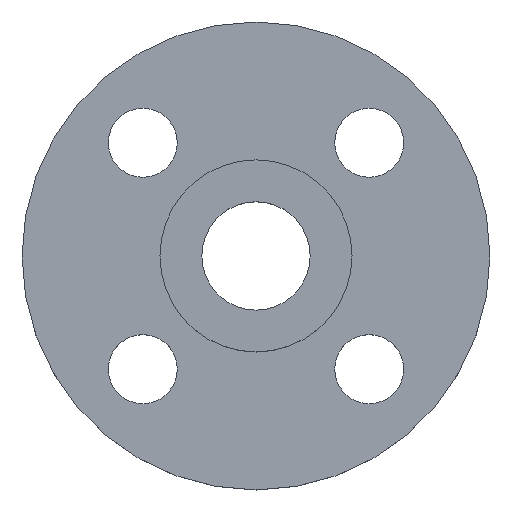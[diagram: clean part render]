
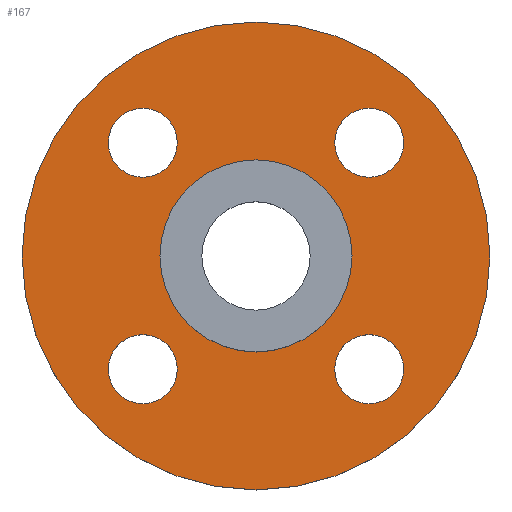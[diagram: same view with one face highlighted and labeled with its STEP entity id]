
A CAD part, top view. The second image highlights one B-rep face of the part: STEP entity #167.
In plain terms, the highlighted planar face has unit normal (0, 0, 1).
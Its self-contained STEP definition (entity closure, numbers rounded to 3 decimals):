
#9 = CIRCLE ( 'NONE', #170, 7. ) ;
#12 = CIRCLE ( 'NONE', #121, 7. ) ;
#14 = CIRCLE ( 'NONE', #69, 7. ) ;
#30 = CIRCLE ( 'NONE', #85, 7. ) ;
#31 = CARTESIAN_POINT ( 'NONE',  ( 22.981, -22.981, -4.5 ) ) ;
#32 = CIRCLE ( 'NONE', #251, 19.5 ) ;
#33 = EDGE_CURVE ( 'NONE', #384, #200, #566, .T. ) ;
#39 = EDGE_CURVE ( 'NONE', #243, #290, #9, .T. ) ;
#47 = EDGE_CURVE ( 'NONE', #245, #373, #301, .T. ) ;
#48 = AXIS2_PLACEMENT_3D ( 'NONE', #207, #211, #212 ) ;
#57 = AXIS2_PLACEMENT_3D ( 'NONE', #516, #518, #519 ) ;
#60 = AXIS2_PLACEMENT_3D ( 'NONE', #499, #500, #501 ) ;
#69 = AXIS2_PLACEMENT_3D ( 'NONE', #31, #106, #74 ) ;
#73 = AXIS2_PLACEMENT_3D ( 'NONE', #433, #435, #436 ) ;
#74 = DIRECTION ( 'NONE',  ( 1., 0., 0. ) ) ;
#85 = AXIS2_PLACEMENT_3D ( 'NONE', #496, #497, #498 ) ;
#102 = CIRCLE ( 'NONE', #110, 47.5 ) ;
#106 = DIRECTION ( 'NONE',  ( 0., 0., -1. ) ) ;
#110 = AXIS2_PLACEMENT_3D ( 'NONE', #545, #546, #547 ) ;
#113 = AXIS2_PLACEMENT_3D ( 'NONE', #529, #530, #531 ) ;
#114 = EDGE_CURVE ( 'NONE', #373, #245, #154, .T. ) ;
#121 = AXIS2_PLACEMENT_3D ( 'NONE', #492, #493, #494 ) ;
#128 = CIRCLE ( 'NONE', #113, 7. ) ;
#133 = CARTESIAN_POINT ( 'NONE',  ( 15.981, 22.981, -4.5 ) ) ;
#138 = CARTESIAN_POINT ( 'NONE',  ( 29.981, -22.981, -4.5 ) ) ;
#144 = CARTESIAN_POINT ( 'NONE',  ( -29.981, -22.981, -4.5 ) ) ;
#153 = EDGE_CURVE ( 'NONE', #290, #243, #12, .T. ) ;
#154 = CIRCLE ( 'NONE', #523, 7. ) ;
#156 = CARTESIAN_POINT ( 'NONE',  ( 47.5, 0., -4.5 ) ) ;
#157 = EDGE_CURVE ( 'NONE', #365, #288, #30, .T. ) ;
#164 = EDGE_CURVE ( 'NONE', #357, #171, #502, .T. ) ;
#167 = ADVANCED_FACE ( 'NONE', ( #508, #509, #510, #511, #513, #514 ), #515, .T. ) ;
#170 = AXIS2_PLACEMENT_3D ( 'NONE', #426, #427, #428 ) ;
#171 = VERTEX_POINT ( 'NONE', #526 ) ;
#175 = EDGE_CURVE ( 'NONE', #171, #357, #128, .T. ) ;
#193 = CARTESIAN_POINT ( 'NONE',  ( 0., 0., -4.5 ) ) ;
#194 = DIRECTION ( 'NONE',  ( 0., 0., -1. ) ) ;
#196 = DIRECTION ( 'NONE',  ( -1., 0., 0. ) ) ;
#200 = VERTEX_POINT ( 'NONE', #538 ) ;
#202 = AXIS2_PLACEMENT_3D ( 'NONE', #423, #424, #425 ) ;
#206 = VERTEX_POINT ( 'NONE', #542 ) ;
#207 = CARTESIAN_POINT ( 'NONE',  ( 0., 0., -4.5 ) ) ;
#209 = VERTEX_POINT ( 'NONE', #543 ) ;
#211 = DIRECTION ( 'NONE',  ( 0., 0., -1. ) ) ;
#212 = DIRECTION ( 'NONE',  ( -1., 0., 0. ) ) ;
#233 = EDGE_CURVE ( 'NONE', #200, #384, #102, .T. ) ;
#243 = VERTEX_POINT ( 'NONE', #555 ) ;
#245 = VERTEX_POINT ( 'NONE', #556 ) ;
#251 = AXIS2_PLACEMENT_3D ( 'NONE', #193, #194, #196 ) ;
#269 = EDGE_LOOP ( 'NONE', ( #295, #296 ) ) ;
#288 = VERTEX_POINT ( 'NONE', #567 ) ;
#290 = VERTEX_POINT ( 'NONE', #568 ) ;
#293 = ORIENTED_EDGE ( 'NONE', *, *, #157, .T. ) ;
#294 = ORIENTED_EDGE ( 'NONE', *, *, #327, .T. ) ;
#295 = ORIENTED_EDGE ( 'NONE', *, *, #47, .T. ) ;
#296 = ORIENTED_EDGE ( 'NONE', *, *, #114, .T. ) ;
#297 = ORIENTED_EDGE ( 'NONE', *, *, #39, .T. ) ;
#298 = ORIENTED_EDGE ( 'NONE', *, *, #153, .T. ) ;
#299 = ORIENTED_EDGE ( 'NONE', *, *, #175, .T. ) ;
#300 = ORIENTED_EDGE ( 'NONE', *, *, #164, .T. ) ;
#301 = CIRCLE ( 'NONE', #73, 7. ) ;
#302 = ORIENTED_EDGE ( 'NONE', *, *, #517, .T. ) ;
#303 = ORIENTED_EDGE ( 'NONE', *, *, #484, .T. ) ;
#304 = ORIENTED_EDGE ( 'NONE', *, *, #33, .F. ) ;
#305 = ORIENTED_EDGE ( 'NONE', *, *, #233, .F. ) ;
#327 = EDGE_CURVE ( 'NONE', #288, #365, #14, .T. ) ;
#355 = EDGE_LOOP ( 'NONE', ( #293, #294 ) ) ;
#356 = CIRCLE ( 'NONE', #48, 19.5 ) ;
#357 = VERTEX_POINT ( 'NONE', #133 ) ;
#360 = EDGE_LOOP ( 'NONE', ( #304, #305 ) ) ;
#365 = VERTEX_POINT ( 'NONE', #138 ) ;
#368 = EDGE_LOOP ( 'NONE', ( #302, #303 ) ) ;
#373 = VERTEX_POINT ( 'NONE', #144 ) ;
#374 = EDGE_LOOP ( 'NONE', ( #299, #300 ) ) ;
#377 = EDGE_LOOP ( 'NONE', ( #297, #298 ) ) ;
#384 = VERTEX_POINT ( 'NONE', #156 ) ;
#423 = CARTESIAN_POINT ( 'NONE',  ( 0., 0., -4.5 ) ) ;
#424 = DIRECTION ( 'NONE',  ( 0., 0., -1. ) ) ;
#425 = DIRECTION ( 'NONE',  ( -1., 0., 0. ) ) ;
#426 = CARTESIAN_POINT ( 'NONE',  ( -22.981, 22.981, -4.5 ) ) ;
#427 = DIRECTION ( 'NONE',  ( 0., 0., -1. ) ) ;
#428 = DIRECTION ( 'NONE',  ( 1., 0., 0. ) ) ;
#433 = CARTESIAN_POINT ( 'NONE',  ( -22.981, -22.981, -4.5 ) ) ;
#435 = DIRECTION ( 'NONE',  ( 0., 0., -1. ) ) ;
#436 = DIRECTION ( 'NONE',  ( 1., 0., 0. ) ) ;
#470 = CARTESIAN_POINT ( 'NONE',  ( -22.981, -22.981, -4.5 ) ) ;
#471 = DIRECTION ( 'NONE',  ( 0., 0., -1. ) ) ;
#472 = DIRECTION ( 'NONE',  ( 1., 0., 0. ) ) ;
#484 = EDGE_CURVE ( 'NONE', #206, #209, #32, .T. ) ;
#492 = CARTESIAN_POINT ( 'NONE',  ( -22.981, 22.981, -4.5 ) ) ;
#493 = DIRECTION ( 'NONE',  ( 0., 0., -1. ) ) ;
#494 = DIRECTION ( 'NONE',  ( 1., 0., 0. ) ) ;
#496 = CARTESIAN_POINT ( 'NONE',  ( 22.981, -22.981, -4.5 ) ) ;
#497 = DIRECTION ( 'NONE',  ( 0., 0., -1. ) ) ;
#498 = DIRECTION ( 'NONE',  ( 1., 0., 0. ) ) ;
#499 = CARTESIAN_POINT ( 'NONE',  ( 22.981, 22.981, -4.5 ) ) ;
#500 = DIRECTION ( 'NONE',  ( 0., 0., -1. ) ) ;
#501 = DIRECTION ( 'NONE',  ( 1., 0., 0. ) ) ;
#502 = CIRCLE ( 'NONE', #60, 7. ) ;
#508 = FACE_BOUND ( 'NONE', #355, .T. ) ;
#509 = FACE_BOUND ( 'NONE', #269, .T. ) ;
#510 = FACE_BOUND ( 'NONE', #377, .T. ) ;
#511 = FACE_BOUND ( 'NONE', #374, .T. ) ;
#513 = FACE_BOUND ( 'NONE', #368, .T. ) ;
#514 = FACE_OUTER_BOUND ( 'NONE', #360, .T. ) ;
#515 = PLANE ( 'NONE',  #57 ) ;
#516 = CARTESIAN_POINT ( 'NONE',  ( 19.5, 0., -4.5 ) ) ;
#517 = EDGE_CURVE ( 'NONE', #209, #206, #356, .T. ) ;
#518 = DIRECTION ( 'NONE',  ( 0., 0., 1. ) ) ;
#519 = DIRECTION ( 'NONE',  ( 1., 0., 0. ) ) ;
#523 = AXIS2_PLACEMENT_3D ( 'NONE', #470, #471, #472 ) ;
#526 = CARTESIAN_POINT ( 'NONE',  ( 29.981, 22.981, -4.5 ) ) ;
#529 = CARTESIAN_POINT ( 'NONE',  ( 22.981, 22.981, -4.5 ) ) ;
#530 = DIRECTION ( 'NONE',  ( 0., 0., -1. ) ) ;
#531 = DIRECTION ( 'NONE',  ( 1., 0., 0. ) ) ;
#538 = CARTESIAN_POINT ( 'NONE',  ( -47.5, 0., -4.5 ) ) ;
#542 = CARTESIAN_POINT ( 'NONE',  ( 19.5, 0., -4.5 ) ) ;
#543 = CARTESIAN_POINT ( 'NONE',  ( -19.5, 0., -4.5 ) ) ;
#545 = CARTESIAN_POINT ( 'NONE',  ( 0., 0., -4.5 ) ) ;
#546 = DIRECTION ( 'NONE',  ( 0., 0., -1. ) ) ;
#547 = DIRECTION ( 'NONE',  ( -1., 0., 0. ) ) ;
#555 = CARTESIAN_POINT ( 'NONE',  ( -15.981, 22.981, -4.5 ) ) ;
#556 = CARTESIAN_POINT ( 'NONE',  ( -15.981, -22.981, -4.5 ) ) ;
#566 = CIRCLE ( 'NONE', #202, 47.5 ) ;
#567 = CARTESIAN_POINT ( 'NONE',  ( 15.981, -22.981, -4.5 ) ) ;
#568 = CARTESIAN_POINT ( 'NONE',  ( -29.981, 22.981, -4.5 ) ) ;
